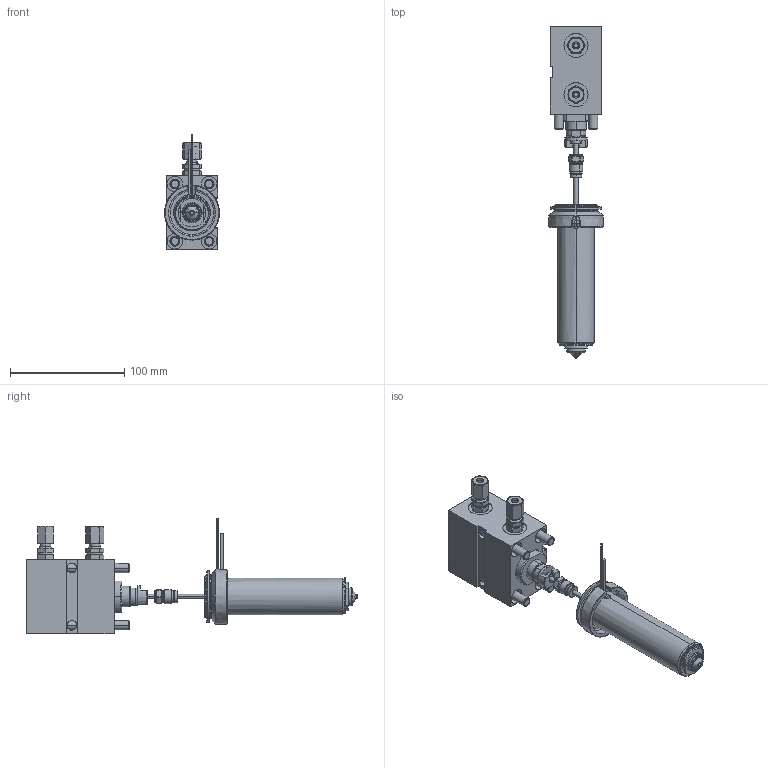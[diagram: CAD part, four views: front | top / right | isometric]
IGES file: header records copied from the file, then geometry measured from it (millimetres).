
Start section: Write IGES format                                    datakit 2008 (c)
Global section: file name: Unknown; native system: DATAKIT Converter; preprocessor: Unknown; author: Unknown; organization: Unknown; date: 950613.180003; units: millimetre
Bounding box: 47.9 x 290 x 101.12 mm (x, y, z)
Surface area: 133557.2 mm2 (no closed solid volume)
Topology: 0 solids, 0 shells, 748 faces, 3370 edges, 3356 vertices
Faces by surface type: revolution 472, bspline 276
